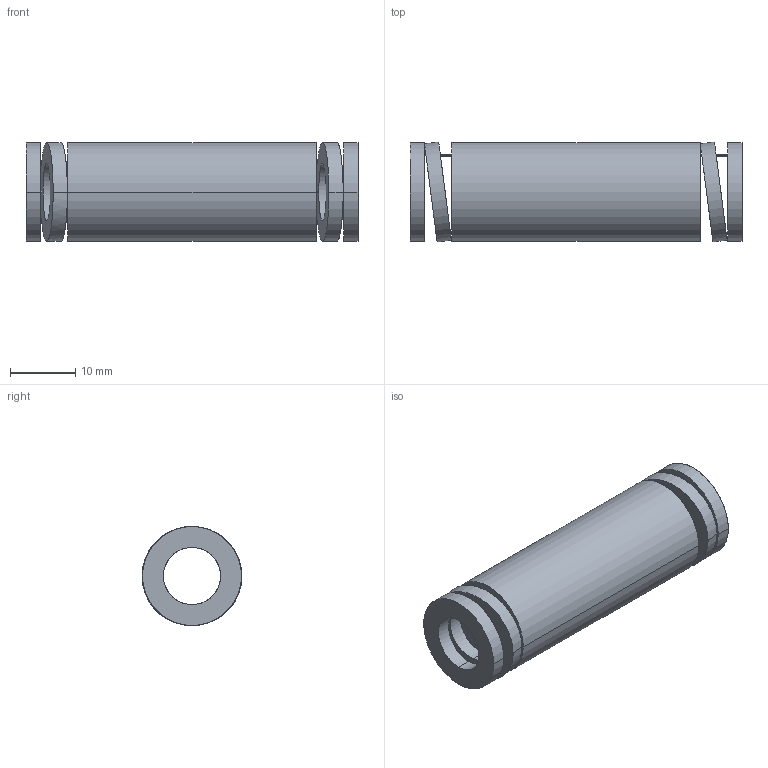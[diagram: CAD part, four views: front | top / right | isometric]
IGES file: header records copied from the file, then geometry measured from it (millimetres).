
Start section: START RECORD GO HERE.
Global section: file name: 392-B16-051.igs; native system: DASSAULT SYSTEMES CATIA V5 R20 - www.3ds.com; preprocessor: CATIA Version 5 Release 20 ; author: Utente; organization: NB04-ASUS; date: 20210812.160609; units: millimetre
Bounding box: 51 x 15.36 x 15.2 mm (x, y, z)
Surface area: 4745.9 mm2 (no closed solid volume)
Topology: 0 solids, 0 shells, 38 faces, 184 edges, 184 vertices
Faces by surface type: revolution 28, plane 10
